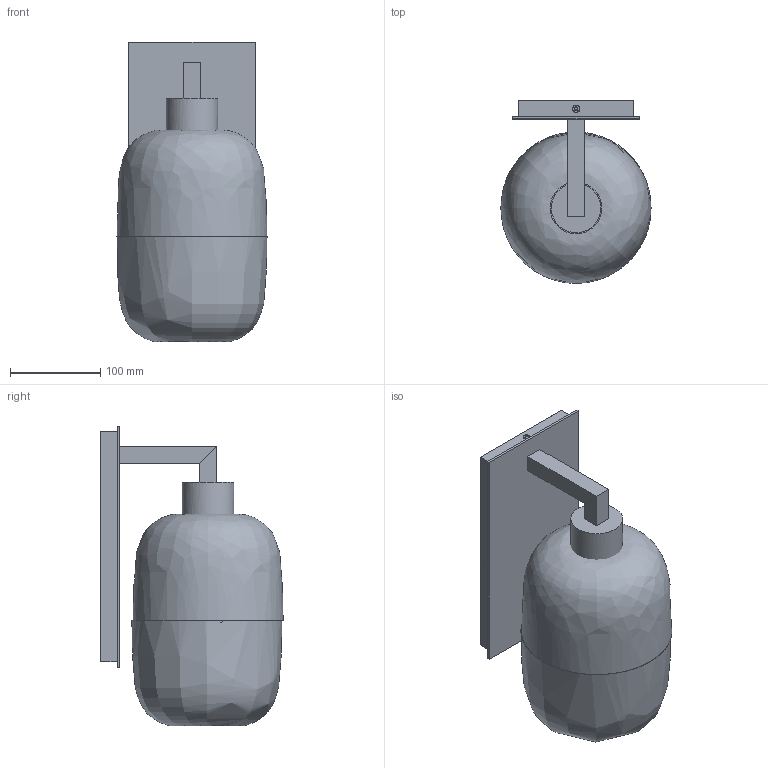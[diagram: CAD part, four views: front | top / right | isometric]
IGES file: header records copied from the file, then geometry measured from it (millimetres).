
Global section: file name: Niche - Balon - Sconce; native system: unknown; preprocessor: unknown; author: unknown; organization: unknown; date: 20220815.113236; units: inch
Bounding box: 165.97 x 201.61 x 331.21 mm (x, y, z)
Volume: 630175.9 mm3; surface area: 633763.1 mm2
Topology: 11 solids, 11 shells, 217 faces, 547 edges, 359 vertices
Faces by surface type: bspline 217
